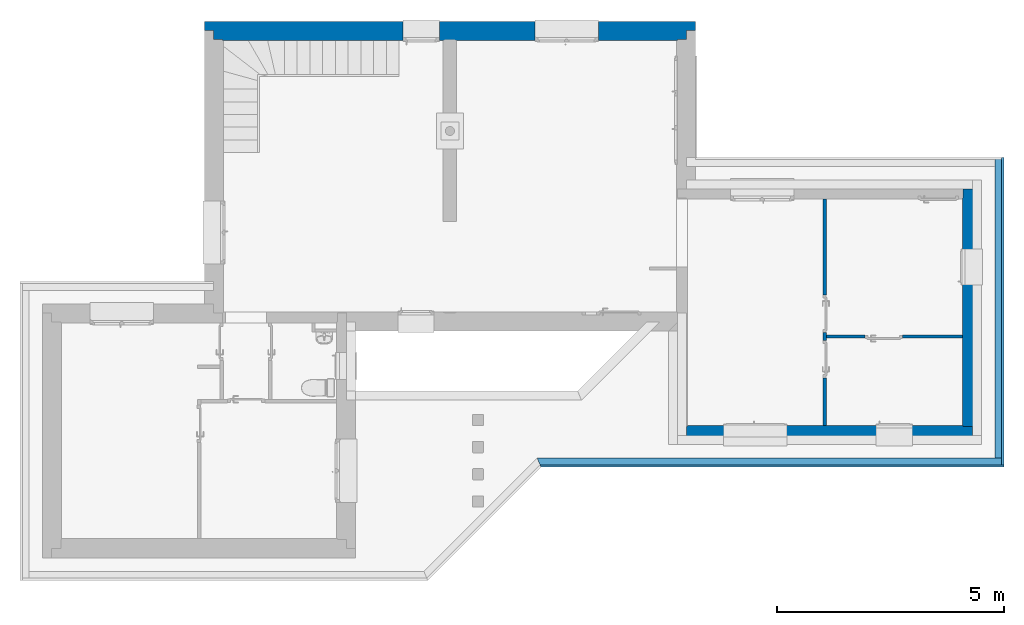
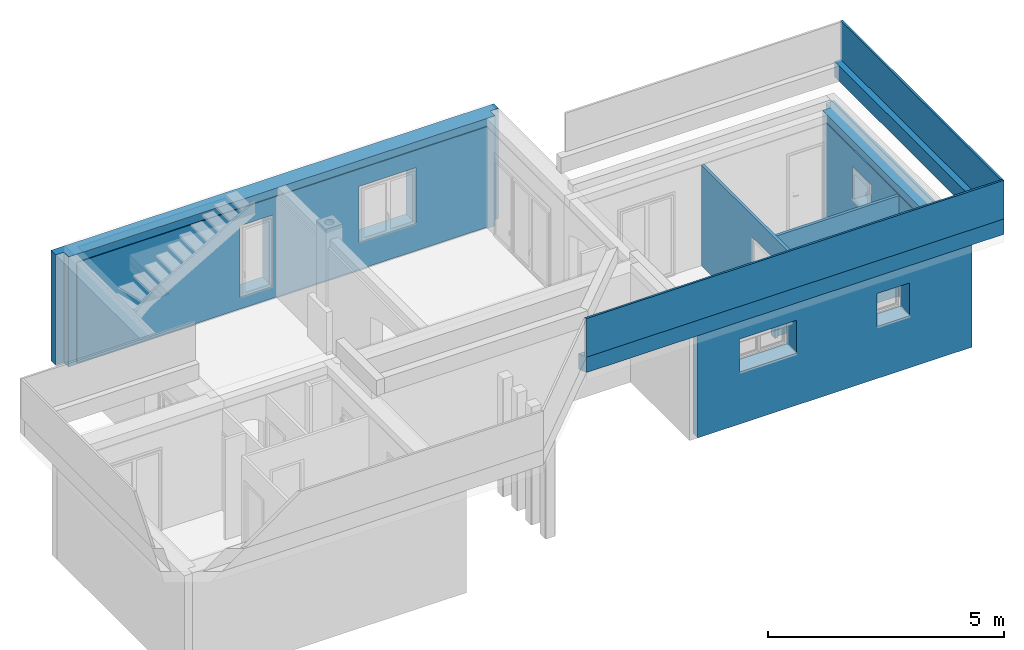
# One storey, part 4 of 16: 9 walls, 8 openings.
"""IFC4 building model written with IfcOpenShell, lengths in metres."""

from ifc_helpers import new_model, entity, si_unit, converted_unit, frame, frame_2d, origin, origin_with_axes, place, context, subcontext, project, spatial, polyline, rectangle, outline, extrude, clip, bounded_halfspace, material, layer, layer_set, layer_usage, element, save


model = new_model("IFC4")

# Units and contexts
model_context = context("Model", 3, precision=1e-05, world=origin())
body_context = subcontext(model_context, "Body", "Model", "MODEL_VIEW")
ifc_project = project(units=[si_unit("LENGTHUNIT", "METRE"), si_unit("AREAUNIT", "SQUARE_METRE"), si_unit("VOLUMEUNIT", "CUBIC_METRE"), si_unit("MASSUNIT", "GRAM", prefix="KILO"), converted_unit("PLANEANGLEUNIT", "DEGREE", entity("IfcPlaneAngleMeasure", 0.0174532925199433), si_unit("PLANEANGLEUNIT", "RADIAN"), dimensions=[0, 0, 0, 0, 0, 0, 0])], contexts=[model_context])

# Building, storey
building_placement = place(None, origin())
building = spatial("IfcBuilding", under=ifc_project, at=building_placement, Name="Projet de Construction", CompositionType="ELEMENT")
storey_placement = place(building_placement, frame((0.0, 0.0, -0.05)))
storey = spatial("IfcBuildingStorey", under=building, at=storey_placement, Name="RDC", CompositionType="ELEMENT", Elevation=-0.05)

# Wall, openings
ifc_material_1 = material()
ifc_layer_1 = layer(ifc_material_1, 0.200000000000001)
ifc_material_2 = material()
ifc_layer_2 = layer(ifc_material_2, 0.2)
ifc_material_3 = material()
ifc_layer_3 = layer(ifc_material_3, 0.02)
ifc_layer_set_1 = layer_set([ifc_layer_1, ifc_layer_2, ifc_layer_3])
ifc_layer_usage_1 = layer_usage(ifc_layer_set_1, "AXIS2", "POSITIVE", 0.0)
wall_1_placement = place(storey_placement, frame((3.1540625, -1.20020833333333, 0.0)))
wall_1 = element("IfcWall", 1, at=wall_1_placement, inside=storey, material=ifc_layer_usage_1, context=body_context, shape_type="Clipping", body=[
    clip(clip(extrude(outline(polyline([(0.0, 0.0), (6.71, 0.0), (6.71, 0.200000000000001), (6.51, 0.200000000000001), (6.51, 0.400000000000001), (6.31, 0.400000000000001), (6.31, 0.420000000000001), (0.22, 0.420000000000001), (0.22, 0.400000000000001), (0.2, 0.400000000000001), (0.2, 0.200000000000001), (0.0, 0.200000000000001), (0.0, 0.0)])), origin_with_axes(), (0.0, 0.0, 1.0), 2.85), bounded_halfspace(frame((3.265, 0.410000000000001, 0.05), z_axis=(0.0, 0.0, 1.0), x_axis=(0.0, -1.0, 0.0)), True, origin_with_axes(), polyline([(0.22, 0.420000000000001), (0.22, 0.400000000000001), (6.31, 0.400000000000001), (6.31, 0.420000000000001), (0.22, 0.420000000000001)]))), bounded_halfspace(frame((3.265, 0.410000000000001, 2.65), z_axis=(0.0, 0.0, -1.0), x_axis=(1.0, 0.0, 0.0)), True, origin_with_axes(), polyline([(0.22, 0.400000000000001), (6.31, 0.400000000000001), (6.31, 0.420000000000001), (0.22, 0.420000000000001), (0.22, 0.400000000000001)]))),
])
opening_1_placement = place(wall_1_placement, frame((5.19, 0.200000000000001, 1.35), z_axis=(0.0, -1.0, 0.0), x_axis=(0.0, 0.0, 1.0)))
element("IfcOpeningStandardCase", 2, at=opening_1_placement, cuts=wall_1, Name="Baie de fenêtre", PredefinedType="OPENING", context=body_context, shape_type="SweptSolid", body=[
    extrude(outline(polyline([(0.0, 0.8), (0.85, 0.8), (0.85, 0.0), (0.0, 0.0), (0.0, 0.8)])), origin_with_axes(), (0.0, 0.0, 1.0), 0.200000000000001),
    extrude(outline(polyline([(0.0, 0.8), (0.85, 0.8), (0.85, 0.0), (0.0, 0.0), (0.0, 0.8)])), frame((0.0, 0.0, -0.2), z_axis=(0.0, 0.0, 1.0), x_axis=(1.0, 0.0, 0.0)), (0.0, 0.0, 1.0), 0.2),
    extrude(outline(polyline([(0.0, 0.8), (0.85, 0.8), (0.85, 0.0), (0.0, 0.0), (0.0, 0.8)])), frame((0.0, 0.0, -0.22), z_axis=(0.0, 0.0, 1.0), x_axis=(1.0, 0.0, 0.0)), (0.0, 0.0, 1.0), 0.02),
])
opening_2_placement = place(wall_1_placement, frame((2.42, 0.200000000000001, 1.35), z_axis=(0.0, -1.0, 0.0), x_axis=(0.0, 0.0, 1.0)))
element("IfcOpeningStandardCase", 3, at=opening_2_placement, cuts=wall_1, Name="Baie de fenêtre", PredefinedType="OPENING", context=body_context, shape_type="SweptSolid", body=[
    extrude(outline(polyline([(0.0, 1.4), (0.85, 1.4), (0.85, 0.0), (0.0, 0.0), (0.0, 1.4)])), origin_with_axes(), (0.0, 0.0, 1.0), 0.200000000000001),
    extrude(outline(polyline([(0.0, 1.4), (0.85, 1.4), (0.85, 0.0), (0.0, 0.0), (0.0, 1.4)])), frame((0.0, 0.0, -0.2), z_axis=(0.0, 0.0, 1.0), x_axis=(1.0, 0.0, 0.0)), (0.0, 0.0, 1.0), 0.2),
    extrude(outline(polyline([(0.0, 1.4), (0.85, 1.4), (0.85, 0.0), (0.0, 0.0), (0.0, 1.4)])), frame((0.0, 0.0, -0.22), z_axis=(0.0, 0.0, 1.0), x_axis=(1.0, 0.0, 0.0)), (0.0, 0.0, 1.0), 0.02),
])

# Wall, opening
ifc_material_4 = material()
ifc_layer_4 = layer(ifc_material_4, 0.2)
ifc_material_5 = material()
ifc_layer_5 = layer(ifc_material_5, 0.2)
ifc_material_6 = material()
ifc_layer_6 = layer(ifc_material_6, 0.02)
ifc_layer_set_2 = layer_set([ifc_layer_4, ifc_layer_5, ifc_layer_6])
ifc_layer_usage_2 = layer_usage(ifc_layer_set_2, "AXIS2", "POSITIVE", 0.0)
wall_2_placement = place(storey_placement, frame((9.8640625, -1.00020833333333, 0.0), z_axis=(0.0, 0.0, 1.0), x_axis=(0.0, 1.0, 0.0)))
wall_2 = element("IfcWall", 4, at=wall_2_placement, inside=storey, material=ifc_layer_usage_2, context=body_context, shape_type="Clipping", body=[
    clip(clip(extrude(outline(polyline([(0.0, -0.42), (5.64, -0.42), (5.64, -0.22), (5.44, -0.22), (5.44, -0.02), (5.24, -0.02), (5.24, 0.0), (0.22, 0.0), (0.22, -0.02), (0.2, -0.02), (0.2, -0.22), (0.0, -0.22), (0.0, -0.42)])), frame((0.0, 0.42, 0.0), z_axis=(0.0, 0.0, 1.0), x_axis=(1.0, 0.0, 0.0)), (0.0, 0.0, 1.0), 2.85), bounded_halfspace(frame((2.73, 0.41, 0.05), z_axis=(0.0, 0.0, 1.0), x_axis=(0.0, -1.0, 0.0)), True, origin_with_axes(), polyline([(0.22, 0.42), (0.22, 0.4), (5.24, 0.4), (5.24, 0.42), (0.22, 0.42)]))), bounded_halfspace(frame((2.73, 0.41, 2.65), z_axis=(0.0, 0.0, -1.0), x_axis=(1.0, 0.0, 0.0)), True, origin_with_axes(), polyline([(0.22, 0.4), (5.24, 0.4), (5.24, 0.42), (0.22, 0.42), (0.22, 0.4)]))),
])
opening_3_placement = place(wall_2_placement, frame((4.12, 0.2, 1.35), z_axis=(0.0, -1.0, 0.0), x_axis=(0.0, 0.0, 1.0)))
element("IfcOpeningStandardCase", 5, at=opening_3_placement, cuts=wall_2, Name="Baie de fenêtre", PredefinedType="OPENING", context=body_context, shape_type="SweptSolid", body=[
    extrude(outline(polyline([(0.0, 0.8), (0.85, 0.8), (0.85, 0.0), (0.0, 0.0), (0.0, 0.8)])), origin_with_axes(), (0.0, 0.0, 1.0), 0.2),
    extrude(outline(polyline([(0.0, 0.8), (0.85, 0.8), (0.85, 0.0), (0.0, 0.0), (0.0, 0.8)])), frame((0.0, 0.0, -0.2), z_axis=(0.0, 0.0, 1.0), x_axis=(1.0, 0.0, 0.0)), (0.0, 0.0, 1.0), 0.2),
    extrude(outline(polyline([(0.0, 0.8), (0.85, 0.8), (0.85, 0.0), (0.0, 0.0), (0.0, 0.8)])), frame((0.0, 0.0, -0.22), z_axis=(0.0, 0.0, 1.0), x_axis=(1.0, 0.0, 0.0)), (0.0, 0.0, 1.0), 0.02),
])

# Wall, openings
ifc_material_7 = material()
ifc_layer_7 = layer(ifc_material_7, 0.2)
ifc_material_8 = material()
ifc_layer_8 = layer(ifc_material_8, 0.2)
ifc_material_9 = material()
ifc_layer_9 = layer(ifc_material_9, 0.02)
ifc_layer_set_3 = layer_set([ifc_layer_7, ifc_layer_8, ifc_layer_9])
ifc_layer_usage_3 = layer_usage(ifc_layer_set_3, "AXIS2", "POSITIVE", 0.0)
wall_3_placement = place(storey_placement, frame((3.5540625, 8.13979166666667, 0.0), z_axis=(0.0, 0.0, 1.0), x_axis=(-1.0, 8.39017252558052e-17, 0.0)))
wall_3 = element("IfcWall", 6, at=wall_3_placement, inside=storey, material=ifc_layer_usage_3, context=body_context, shape_type="Clipping", body=[
    clip(clip(extrude(outline(polyline([(-10.84, -0.420000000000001), (3.52387246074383e-17, -0.420000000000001), (1.84583795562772e-17, -0.220000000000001), (-0.2, -0.220000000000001), (-0.2, -0.0200000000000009), (-0.4, -0.0200000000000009), (-0.4, -9.4305539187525e-16), (-10.44, -8.75934011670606e-16), (-10.44, -0.0200000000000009), (-10.64, -0.0200000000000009), (-10.64, -0.220000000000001), (-10.84, -0.220000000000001), (-10.84, -0.420000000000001)])), frame((10.84, 0.420000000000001, 0.0), z_axis=(0.0, 0.0, 1.0), x_axis=(1.0, 0.0, 0.0)), (0.0, 0.0, 1.0), 2.85), bounded_halfspace(frame((5.42, 0.41, 0.05), z_axis=(0.0, 0.0, 1.0), x_axis=(8.39017252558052e-17, -1.0, 0.0)), True, origin_with_axes(), polyline([(0.400000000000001, 0.42), (0.400000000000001, 0.4), (10.44, 0.4), (10.44, 0.42), (0.400000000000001, 0.42)]))), bounded_halfspace(frame((5.42, 0.41, 2.65), z_axis=(0.0, 0.0, -1.0), x_axis=(1.0, -6.68539643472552e-18, 0.0)), True, origin_with_axes(), polyline([(0.400000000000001, 0.4), (10.44, 0.4), (10.44, 0.42), (0.400000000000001, 0.42), (0.400000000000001, 0.4)]))),
])
opening_4_placement = place(wall_3_placement, frame((6.455, 0.2, 0.35), z_axis=(0.0, -1.0, 0.0), x_axis=(0.0, 0.0, 1.0)))
element("IfcOpeningStandardCase", 7, at=opening_4_placement, cuts=wall_3, Name="Baie de fenêtre", PredefinedType="OPENING", context=body_context, shape_type="SweptSolid", body=[
    extrude(outline(polyline([(0.0, 0.8), (1.85, 0.8), (1.85, 0.0), (0.0, 0.0), (0.0, 0.8)])), origin_with_axes(), (0.0, 0.0, 1.0), 0.2),
    extrude(outline(polyline([(0.0, 0.8), (1.85, 0.8), (1.85, 0.0), (0.0, 0.0), (0.0, 0.8)])), frame((0.0, 0.0, -0.2), z_axis=(0.0, 0.0, 1.0), x_axis=(1.0, 0.0, 0.0)), (0.0, 0.0, 1.0), 0.2),
    extrude(outline(polyline([(0.0, 0.8), (1.85, 0.8), (1.85, 0.0), (0.0, 0.0), (0.0, 0.8)])), frame((0.0, 0.0, -0.22), z_axis=(0.0, 0.0, 1.0), x_axis=(1.0, 0.0, 0.0)), (0.0, 0.0, 1.0), 0.02),
])
opening_5_placement = place(wall_3_placement, frame((3.545, 0.2, 0.75), z_axis=(0.0, -1.0, 0.0), x_axis=(0.0, 0.0, 1.0)))
element("IfcOpeningStandardCase", 8, at=opening_5_placement, cuts=wall_3, Name="Baie de fenêtre", PredefinedType="OPENING", context=body_context, shape_type="SweptSolid", body=[
    extrude(outline(polyline([(0.0, 1.4), (1.45, 1.4), (1.45, 0.0), (0.0, 0.0), (0.0, 1.4)])), origin_with_axes(), (0.0, 0.0, 1.0), 0.2),
    extrude(outline(polyline([(0.0, 1.4), (1.45, 1.4), (1.45, 0.0), (0.0, 0.0), (0.0, 1.4)])), frame((0.0, 0.0, -0.2), z_axis=(0.0, 0.0, 1.0), x_axis=(1.0, 0.0, 0.0)), (0.0, 0.0, 1.0), 0.2),
    extrude(outline(polyline([(0.0, 1.4), (1.45, 1.4), (1.45, 0.0), (0.0, 0.0), (0.0, 1.4)])), frame((0.0, 0.0, -0.22), z_axis=(0.0, 0.0, 1.0), x_axis=(1.0, 0.0, 0.0)), (0.0, 0.0, 1.0), 0.02),
])

ifc_material_10 = material()
ifc_layer_10 = layer(ifc_material_10, 0.07)
ifc_layer_set_4 = layer_set([ifc_layer_10])
ifc_layer_usage_4 = layer_usage(ifc_layer_set_4, "AXIS2", "POSITIVE", 0.0)
wall_4_placement = place(storey_placement, frame((6.3740625, 4.21979166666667, 0.05), z_axis=(0.0, 0.0, 1.0), x_axis=(-1.81898940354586e-16, -1.0, 0.0)))
wall_4 = element("IfcWall", 9, at=wall_4_placement, inside=storey, material=ifc_layer_usage_4, context=body_context, shape_type="SweptSolid", body=[
    extrude(rectangle(XDim=5.0, YDim=0.07, at=frame_2d((2.5, 0.035), x_axis=(1.0, 0.0))), origin_with_axes(), (0.0, 0.0, 1.0), 2.6),
])
opening_6_placement = place(wall_4_placement, frame((2.12, -5.23868948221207e-16, 0.0), z_axis=(0.0, 1.0, 0.0), x_axis=(0.0, 0.0, 1.0)))
element("IfcOpeningStandardCase", 10, at=opening_6_placement, cuts=wall_4, Name="Baie de porte", PredefinedType="OPENING", context=body_context, shape_type="SweptSolid", body=[
    extrude(outline(polyline([(0.0, 0.83), (2.04, 0.83), (2.04, 0.0), (0.0, 0.0), (0.0, 0.83)])), origin_with_axes(), (0.0, 0.0, 1.0), 0.0700000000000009),
])
opening_7_placement = place(wall_4_placement, frame((3.12, -3.41970007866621e-16, 0.0), z_axis=(0.0, 1.0, 0.0), x_axis=(0.0, 0.0, 1.0)))
element("IfcOpeningStandardCase", 11, at=opening_7_placement, cuts=wall_4, Name="Baie de porte", PredefinedType="OPENING", context=body_context, shape_type="SweptSolid", body=[
    extrude(outline(polyline([(0.0, 0.83), (2.04, 0.83), (2.04, 0.0), (0.0, 0.0), (0.0, 0.83)])), origin_with_axes(), (0.0, 0.0, 1.0), 0.07),
])

# Wall, opening
ifc_material_11 = material()
ifc_layer_11 = layer(ifc_material_11, 0.07)
ifc_layer_set_5 = layer_set([ifc_layer_11])
ifc_layer_usage_5 = layer_usage(ifc_layer_set_5, "AXIS2", "POSITIVE", 0.0)
wall_5_placement = place(storey_placement, frame((9.4440625, 1.21979166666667, 0.05), z_axis=(0.0, 0.0, 1.0), x_axis=(-1.0, 0.0, 0.0)))
wall_5 = element("IfcWall", 12, at=wall_5_placement, inside=storey, material=ifc_layer_usage_5, context=body_context, shape_type="SweptSolid", body=[
    extrude(rectangle(XDim=3.0, YDim=0.07, at=frame_2d((1.5, 0.035), x_axis=(1.0, 0.0))), origin_with_axes(), (0.0, 0.0, 1.0), 2.6),
])
opening_8_placement = place(wall_5_placement, frame((2.15, 0.07, 0.0), z_axis=(0.0, -1.0, 0.0), x_axis=(0.0, 0.0, 1.0)))
element("IfcOpeningStandardCase", 13, at=opening_8_placement, cuts=wall_5, Name="Baie de porte", PredefinedType="OPENING", context=body_context, shape_type="SweptSolid", body=[
    extrude(outline(polyline([(0.0, 0.83), (2.04, 0.83), (2.04, 0.0), (0.0, 0.0), (0.0, 0.83)])), origin_with_axes(), (0.0, 0.0, 1.0), 0.07),
])

# Walls
ifc_material_12 = material(Name="Bois & Verre")
ifc_layer_12 = layer(ifc_material_12, 0.05)
ifc_layer_set_6 = layer_set([ifc_layer_12])
ifc_layer_usage_6 = layer_usage(ifc_layer_set_6, "AXIS2", "POSITIVE", 0.0)
wall_6_placement = place(storey_placement, frame((0.143466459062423, -1.70020833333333, 3.45)))
element("IfcWall", 14, at=wall_6_placement, inside=storey, material=ifc_layer_usage_6, context=body_context, shape_type="SweptSolid", body=[
    extrude(outline(polyline([(0.020710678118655, 0.0), (10.2413067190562, 0.0), (10.2413067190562, 0.05), (0.0, 0.05), (0.020710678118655, 0.0)])), frame((-0.020710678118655, 0.0, 0.0), z_axis=(0.0, 0.0, 1.0), x_axis=(1.0, 0.0, 0.0)), (0.0, 0.0, 1.0), 1.0),
])
ifc_material_13 = material(Name="Bois & Verre")
ifc_layer_13 = layer(ifc_material_13, 0.05)
ifc_layer_set_7 = layer_set([ifc_layer_13])
ifc_layer_usage_7 = layer_usage(ifc_layer_set_7, "AXIS2", "POSITIVE", 0.0)
wall_7_placement = place(storey_placement, frame((10.3640625, -1.65020833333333, 3.45), z_axis=(0.0, 0.0, 1.0), x_axis=(0.0, 1.0, 0.0)))
element("IfcWall", 15, at=wall_7_placement, inside=storey, material=ifc_layer_usage_7, context=body_context, shape_type="SweptSolid", body=[
    extrude(rectangle(XDim=6.79, YDim=0.05, at=frame_2d((3.395, 0.025), x_axis=(1.0, 0.0))), origin_with_axes(), (0.0, 0.0, 1.0), 1.0),
])
ifc_material_14 = material()
ifc_layer_14 = layer(ifc_material_14, 0.2)
ifc_layer_set_8 = layer_set([ifc_layer_14])
ifc_layer_usage_8 = layer_usage(ifc_layer_set_8, "AXIS2", "POSITIVE", 0.0)
wall_8_placement = place(storey_placement, frame((0.143466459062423, -1.70020833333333, 3.05)))
element("IfcWall", 16, at=wall_8_placement, inside=storey, material=ifc_layer_usage_8, context=body_context, shape_type="SweptSolid", body=[
    extrude(outline(polyline([(0.082842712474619, 0.0), (10.3034387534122, 0.0), (10.3034387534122, 0.2), (0.0, 0.2), (0.082842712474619, 0.0)])), frame((-0.082842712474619, 0.0, 0.0), z_axis=(0.0, 0.0, 1.0), x_axis=(1.0, 0.0, 0.0)), (0.0, 0.0, 1.0), 0.4),
])
ifc_material_15 = material()
ifc_layer_15 = layer(ifc_material_15, 0.2)
ifc_layer_set_9 = layer_set([ifc_layer_15])
ifc_layer_usage_9 = layer_usage(ifc_layer_set_9, "AXIS2", "POSITIVE", 0.0)
wall_9_placement = place(storey_placement, frame((10.3640625, -1.50020833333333, 3.05), z_axis=(0.0, 0.0, 1.0), x_axis=(0.0, 1.0, 0.0)))
element("IfcWall", 17, at=wall_9_placement, inside=storey, material=ifc_layer_usage_9, context=body_context, shape_type="SweptSolid", body=[
    extrude(rectangle(XDim=6.64, YDim=0.2, at=frame_2d((3.32, 0.1), x_axis=(1.0, 0.0))), origin_with_axes(), (0.0, 0.0, 1.0), 0.4),
])

save(model, "model.ifc")
